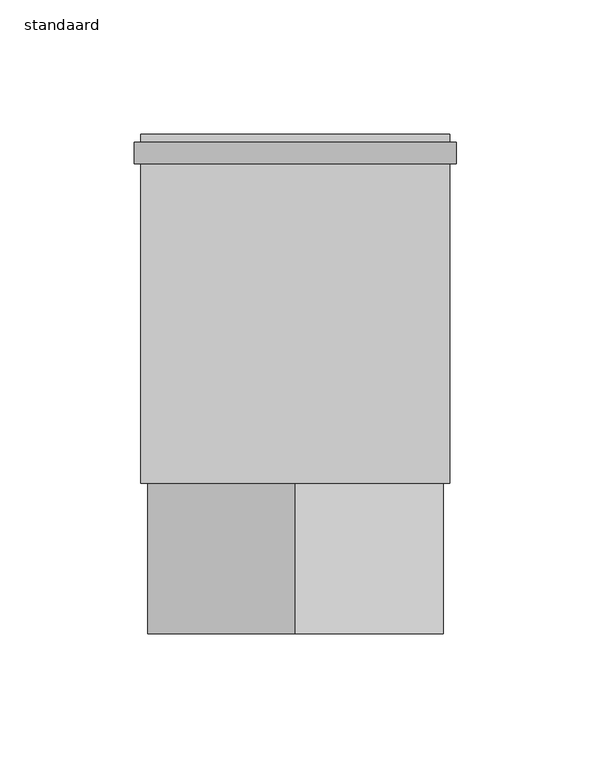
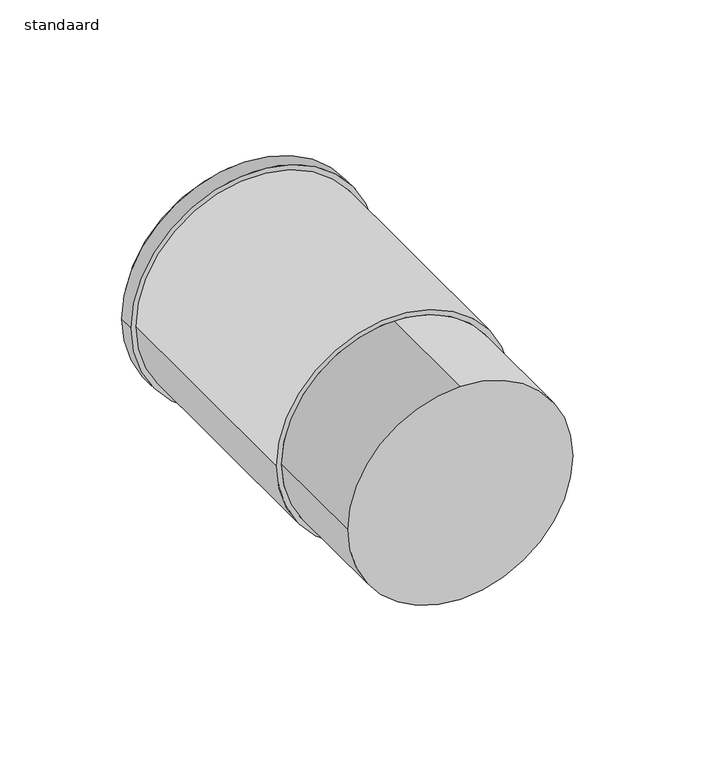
"""IFC4 building model written with IfcOpenShell, lengths in millimetres: pipe fitting geometry, 400_52_Dyka_PP_DykaStil_expansiemof : standaard."""

from ifc_helpers import new_model, si_unit, point, frame, origin, origin_2d, place, context, project, spatial, circle_curve, trimmed, segment, composite_curve, outline, extrude, source, transform, mapped, element, save


def standaard_f7e08951(model_context):
    return source(origin(), model_context, "Body", "SweptSolid", [
        extrude(outline(composite_curve([segment(trimmed(circle_curve(origin_2d(), 60.0), [point((0.0, -60.0))], [point((0.0, 60.0))], False, "CARTESIAN"), True, "CONTINUOUS"), segment(trimmed(circle_curve(origin_2d(), 60.0), [point((0.0, 60.0))], [point((0.0, -60.0))], False, "CARTESIAN"), True, "CONTINUOUS")], self_intersect=False), holes=[composite_curve([segment(trimmed(circle_curve(origin_2d(), 57.5), [point((0.0, -57.5))], [point((0.0, 57.5))], True, "CARTESIAN"), True, "CONTINUOUS"), segment(trimmed(circle_curve(origin_2d(), 57.5), [point((0.0, 57.5))], [point((0.0, -57.5))], True, "CARTESIAN"), True, "CONTINUOUS")], self_intersect=False)]), frame((0.0, 175.0, 0.0), z_axis=(0.0, 1.0, 0.0), x_axis=(0.0, 0.0, 1.0)), (0.0, 0.0, 1.0), 8.0),
        extrude(outline(composite_curve([segment(trimmed(circle_curve(origin_2d(), 57.5), [point((0.0, 57.5))], [point((0.0, -57.5))], False, "CARTESIAN"), True, "CONTINUOUS"), segment(trimmed(circle_curve(origin_2d(), 57.5), [point((0.0, -57.5))], [point((0.0, 57.5))], False, "CARTESIAN"), True, "CONTINUOUS")], self_intersect=False), holes=[composite_curve([segment(trimmed(circle_curve(origin_2d(), 55.0), [point((0.0, 55.0))], [point((0.0, -55.0))], True, "CARTESIAN"), True, "CONTINUOUS"), segment(trimmed(circle_curve(origin_2d(), 55.0), [point((0.0, -55.0))], [point((0.0, 55.0))], True, "CARTESIAN"), True, "CONTINUOUS")], self_intersect=False)]), frame((0.0, 56.0, 0.0), z_axis=(0.0, 1.0, 0.0), x_axis=(0.0, 0.0, 1.0)), (0.0, 0.0, 1.0), 130.0),
        extrude(outline(composite_curve([segment(trimmed(circle_curve(origin_2d(), 55.0), [point((55.0, 0.0))], [point((0.0, -55.0))], False, "CARTESIAN"), True, "CONTINUOUS"), segment(trimmed(circle_curve(origin_2d(), 55.0), [point((0.0, -55.0))], [point((-55.0, 0.0))], False, "CARTESIAN"), True, "CONTINUOUS"), segment(trimmed(circle_curve(origin_2d(), 55.0), [point((-55.0, 0.0))], [point((0.0, 55.0))], False, "CARTESIAN"), True, "CONTINUOUS"), segment(trimmed(circle_curve(origin_2d(), 55.0), [point((0.0, 55.0))], [point((55.0, 0.0))], False, "CARTESIAN"), True, "CONTINUOUS")], self_intersect=False)), frame((0.0, 0.0, 0.0), z_axis=(0.0, 1.0, 0.0), x_axis=(0.0, 0.0, 1.0)), (0.0, 0.0, 1.0), 56.0),
    ])


if __name__ == "__main__":
    model = new_model("IFC4")
    model_context = context("Model", 3, world=origin())
    ifc_project = project(units=[si_unit("LENGTHUNIT", "METRE", prefix="MILLI")], contexts=[model_context])
    site = spatial("IfcSite", under=ifc_project)
    building = spatial("IfcBuilding", under=site)
    placement = place(None, origin())
    standaard_shape = standaard_f7e08951(model_context)
    element("IfcPipeFitting", 1, ObjectType="400_52_Dyka_PP_DykaStil_expansiemof : standaard", at=placement, inside=building, context=model_context, shape_type="MappedRepresentation", body=[
        mapped(standaard_shape, transform((0.0, 0.0, 0.0), x_axis=(1.0, 0.0, 0.0), y_axis=(0.0, 1.0, 0.0), z_axis=(0.0, 0.0, 1.0))),
    ])
    save(model, "model.ifc")
